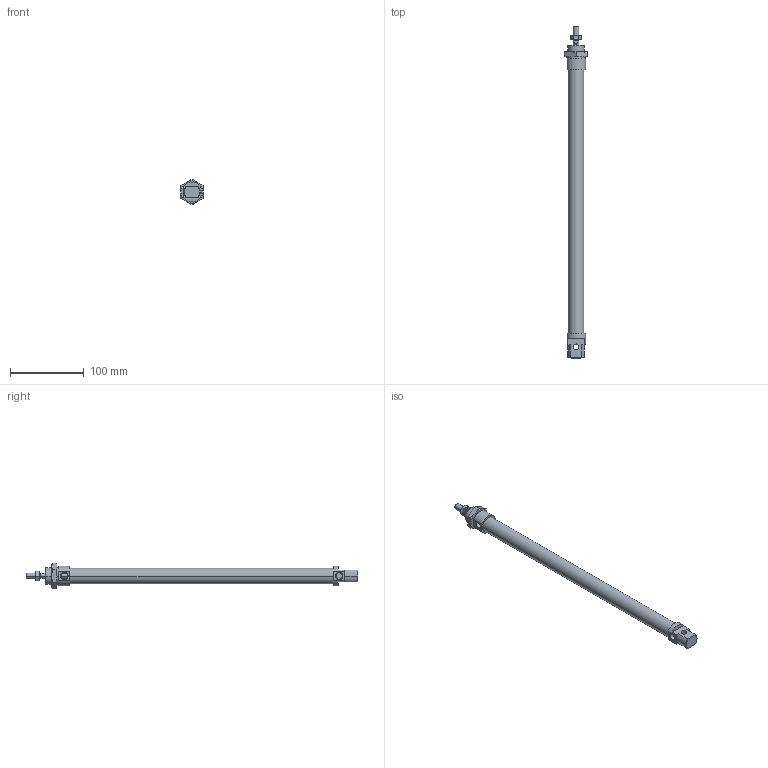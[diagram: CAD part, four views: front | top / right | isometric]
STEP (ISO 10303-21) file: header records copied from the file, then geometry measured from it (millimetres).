
FILE_DESCRIPTION((''),'2;1');
FILE_NAME('I:\DOC-EDP\Lib-3d\1200\CILINDRI\1280\1280_20_0320.stp','2003-04-07T17:58:51',('maffial1'),(''),'Autodesk Inventor (R) 6.0','Autodesk Inventor (R) 6.0','');
FILE_SCHEMA(('AUTOMOTIVE_DESIGN { 1 0 10303 214 1 1 1 1 }'));
Length unit declared in the file: millimetre
Products named in the file (5): 1280_20_0320; S1280_20_320; 1200_20_05; 1200_20_06; C1280_20_320
Assembly tree (4 placements, depth 2):
  1280_20_0320
    S1280_20_320
    1200_20_05
    1200_20_06
    C1280_20_320
Bounding box: 30 x 450 x 34.64 mm (x, y, z)
Volume: 157313.3 mm3; surface area: 51929 mm2
Topology: 4 solids, 4 shells, 124 faces, 281 edges, 170 vertices
Faces by surface type: plane 41, cone 40, cylinder 22, bspline 21
Entity records: 3816 total; most frequent: CARTESIAN_POINT 1039, DIRECTION 573, ORIENTED_EDGE 562, EDGE_CURVE 281, AXIS2_PLACEMENT_3D 236, VERTEX_POINT 170, EDGE_LOOP 137, FACE_OUTER_BOUND 124
